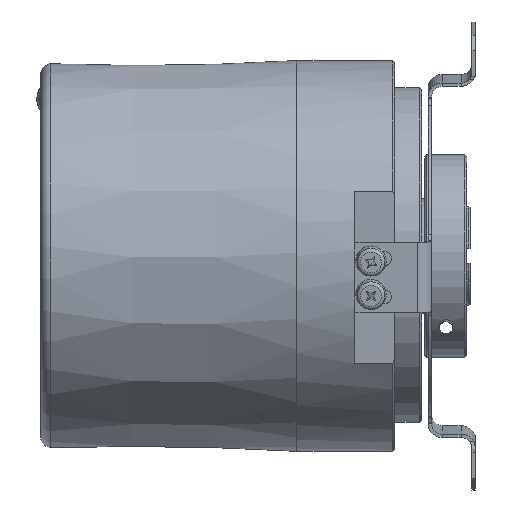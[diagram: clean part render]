
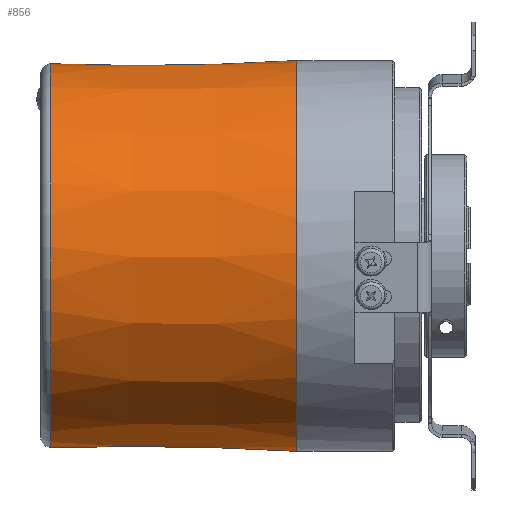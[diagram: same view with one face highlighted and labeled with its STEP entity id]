
A CAD part, front view. The second image highlights one B-rep face of the part: STEP entity #856.
In plain terms, the highlighted conical face has half-angle 0.75 degrees and reference radius 29 mm.
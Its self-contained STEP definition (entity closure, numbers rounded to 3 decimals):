
#46 = FACE_BOUND ( 'NONE', #16278, .T. ) ;
#79 = EDGE_CURVE ( 'NONE', #14159, #11202, #3216, .T. ) ;
#143 = AXIS2_PLACEMENT_3D ( 'NONE', #6059, #15076, #7360 ) ;
#185 = CARTESIAN_POINT ( 'NONE',  ( -2.48, 24.354, 15.503 ) ) ;
#376 = DIRECTION ( 'NONE',  ( 1., 0., 0. ) ) ;
#731 = CARTESIAN_POINT ( 'NONE',  ( -3.404, 26.422, -11.604 ) ) ;
#856 = ADVANCED_FACE ( 'NONE', ( #46, #10703 ), #11725, .T. ) ;
#1019 = ORIENTED_EDGE ( 'NONE', *, *, #16421, .T. ) ;
#1021 = CIRCLE ( 'NONE', #14043, 29. ) ;
#1437 = CARTESIAN_POINT ( 'NONE',  ( -4.417, 22.307, 18.287 ) ) ;
#1640 = CIRCLE ( 'NONE', #143, 28.869 ) ;
#1852 = VERTEX_POINT ( 'NONE', #16430 ) ;
#1936 = ORIENTED_EDGE ( 'NONE', *, *, #8983, .F. ) ;
#1986 = CARTESIAN_POINT ( 'NONE',  ( -2.48, 27.311, -9.359 ) ) ;
#2044 = CARTESIAN_POINT ( 'NONE',  ( -3.867, 26.227, -12.024 ) ) ;
#2679 = EDGE_LOOP ( 'NONE', ( #1019 ) ) ;
#2724 = CARTESIAN_POINT ( 'NONE',  ( -3.864, 22.54, 18.01 ) ) ;
#2794 = CARTESIAN_POINT ( 'NONE',  ( -27.02, 25.582, -12.671 ) ) ;
#2997 = EDGE_CURVE ( 'NONE', #14159, #10012, #12393, .T. ) ;
#3216 = B_SPLINE_CURVE_WITH_KNOTS ( 'NONE', 3,
 ( #7847, #15574, #6537, #9132, #1437, #10421, #2724, #11740, #3980, #13033, #5297, #14333, #6586, #15623, #7913, #185 ),
 .UNSPECIFIED., .F., .F.,
 ( 4, 2, 2, 2, 2, 2, 2, 4 ),
 ( 0., 0.001, 0.001, 0.002, 0.003, 0.003, 0.004, 0.005 ),
 .UNSPECIFIED. ) ;
#3317 = CARTESIAN_POINT ( 'NONE',  ( -4.419, 26.068, -12.348 ) ) ;
#3386 = VERTEX_POINT ( 'NONE', #7281 ) ;
#3725 = CARTESIAN_POINT ( 'NONE',  ( -8.48, 22.082, 18.475 ) ) ;
#3932 = ORIENTED_EDGE ( 'NONE', *, *, #2997, .T. ) ;
#3980 = CARTESIAN_POINT ( 'NONE',  ( -3.399, 22.834, 17.646 ) ) ;
#4065 = CARTESIAN_POINT ( 'NONE',  ( -22.021, 25.667, -12.647 ) ) ;
#4546 = CARTESIAN_POINT ( 'NONE',  ( -2.498, 27.239, -9.566 ) ) ;
#4607 = CARTESIAN_POINT ( 'NONE',  ( -5.043, 25.967, -12.54 ) ) ;
#4673 = ORIENTED_EDGE ( 'NONE', *, *, #5038, .T. ) ;
#4985 = CARTESIAN_POINT ( 'NONE',  ( -5.48, 22.134, 18.473 ) ) ;
#4987 = VERTEX_POINT ( 'NONE', #12284 ) ;
#5038 = EDGE_CURVE ( 'NONE', #12428, #1852, #13265, .T. ) ;
#5044 = CARTESIAN_POINT ( 'NONE',  ( -16.479, 21.942, 18.478 ) ) ;
#5064 = AXIS2_PLACEMENT_3D ( 'NONE', #10460, #14373, #6696 ) ;
#5297 = CARTESIAN_POINT ( 'NONE',  ( -3.029, 23.163, 17.22 ) ) ;
#5357 = CARTESIAN_POINT ( 'NONE',  ( -14.022, 25.802, -12.61 ) ) ;
#5421 = EDGE_CURVE ( 'NONE', #10012, #12428, #16420, .T. ) ;
#5855 = CARTESIAN_POINT ( 'NONE',  ( -2.618, 27.016, -10.174 ) ) ;
#5856 = ORIENTED_EDGE ( 'NONE', *, *, #5421, .T. ) ;
#5917 = CARTESIAN_POINT ( 'NONE',  ( -5.48, 25.946, -12.57 ) ) ;
#6059 = CARTESIAN_POINT ( 'NONE',  ( -2.48, 0., 0. ) ) ;
#6346 = CARTESIAN_POINT ( 'NONE',  ( -23.325, 21.822, 18.482 ) ) ;
#6537 = CARTESIAN_POINT ( 'NONE',  ( -5.038, 22.162, 18.448 ) ) ;
#6586 = CARTESIAN_POINT ( 'NONE',  ( -2.75, 23.515, 16.743 ) ) ;
#6671 = CARTESIAN_POINT ( 'NONE',  ( -8.328, 25.898, -12.583 ) ) ;
#6696 = DIRECTION ( 'NONE',  ( 0., -0.993, -0.122 ) ) ;
#7156 = CARTESIAN_POINT ( 'NONE',  ( -2.834, 26.79, -10.748 ) ) ;
#7224 = DIRECTION ( 'NONE',  ( -1., 0., 0. ) ) ;
#7281 = CARTESIAN_POINT ( 'NONE',  ( -2.48, 27.381, -9.15 ) ) ;
#7360 = DIRECTION ( 'NONE',  ( 0., 0.993, 0.122 ) ) ;
#7467 = ORIENTED_EDGE ( 'NONE', *, *, #16012, .T. ) ;
#7581 = CARTESIAN_POINT ( 'NONE',  ( -6.48, 22.116, 18.474 ) ) ;
#7847 = CARTESIAN_POINT ( 'NONE',  ( -5.48, 22.134, 18.473 ) ) ;
#7913 = CARTESIAN_POINT ( 'NONE',  ( -2.48, 24.117, 15.875 ) ) ;
#8109 = CARTESIAN_POINT ( 'NONE',  ( -29.02, 0., 0. ) ) ;
#8385 = CARTESIAN_POINT ( 'NONE',  ( -2.48, 27.381, -9.15 ) ) ;
#8445 = CARTESIAN_POINT ( 'NONE',  ( -3.145, 26.565, -11.281 ) ) ;
#8983 = EDGE_CURVE ( 'NONE', #3386, #1852, #11245, .T. ) ;
#9132 = CARTESIAN_POINT ( 'NONE',  ( -4.617, 22.247, 18.355 ) ) ;
#9367 = CARTESIAN_POINT ( 'NONE',  ( -5.48, 22.134, 18.473 ) ) ;
#9377 = DIRECTION ( 'NONE',  ( 0., 0.993, 0.122 ) ) ;
#9748 = CARTESIAN_POINT ( 'NONE',  ( -3.548, 26.354, -11.753 ) ) ;
#9790 = AXIS2_PLACEMENT_3D ( 'NONE', #8109, #376, #9377 ) ;
#10012 = VERTEX_POINT ( 'NONE', #13979 ) ;
#10421 = CARTESIAN_POINT ( 'NONE',  ( -4.037, 22.454, 18.113 ) ) ;
#10460 = CARTESIAN_POINT ( 'NONE',  ( 7.5, 0., 0. ) ) ;
#10501 = CARTESIAN_POINT ( 'NONE',  ( -28.02, 25.565, -12.676 ) ) ;
#10703 = FACE_OUTER_BOUND ( 'NONE', #2679, .T. ) ;
#11044 = CARTESIAN_POINT ( 'NONE',  ( -4.044, 26.167, -12.146 ) ) ;
#11200 = CARTESIAN_POINT ( 'NONE',  ( -29.02, 21.722, 18.484 ) ) ;
#11202 = VERTEX_POINT ( 'NONE', #12289 ) ;
#11245 = B_SPLINE_CURVE_WITH_KNOTS ( 'NONE', 3,
 ( #8385, #1986, #4546, #13586, #5855, #14883, #7156, #16169, #8445, #731, #9748, #2044, #11044, #3317, #12349, #4607, #13632, #5917 ),
 .UNSPECIFIED., .F., .F.,
 ( 4, 2, 2, 2, 2, 2, 2, 2, 4 ),
 ( 0., 0.001, 0.001, 0.002, 0.003, 0.003, 0.004, 0.005, 0.005 ),
 .UNSPECIFIED. ) ;
#11492 = CARTESIAN_POINT ( 'NONE',  ( -7.48, 22.099, 18.474 ) ) ;
#11725 = CONICAL_SURFACE ( 'NONE', #5064, 29., 0.013 ) ;
#11740 = CARTESIAN_POINT ( 'NONE',  ( -3.545, 22.729, 17.777 ) ) ;
#11803 = CARTESIAN_POINT ( 'NONE',  ( -26.02, 25.599, -12.666 ) ) ;
#12284 = CARTESIAN_POINT ( 'NONE',  ( 7.5, 28.784, 3.534 ) ) ;
#12289 = CARTESIAN_POINT ( 'NONE',  ( -2.48, 24.354, 15.503 ) ) ;
#12349 = CARTESIAN_POINT ( 'NONE',  ( -4.623, 26.026, -12.429 ) ) ;
#12393 = B_SPLINE_CURVE_WITH_KNOTS ( 'NONE', 3,
 ( #4985, #7581, #11492, #3725, #12791, #5044, #14063, #6346, #15373, #11200 ),
 .UNSPECIFIED., .F., .F.,
 ( 4, 3, 3, 4 ),
 ( 0., 0.003, 0.015, 0.024 ),
 .UNSPECIFIED. ) ;
#12428 = VERTEX_POINT ( 'NONE', #15739 ) ;
#12791 = CARTESIAN_POINT ( 'NONE',  ( -12.479, 22.012, 18.477 ) ) ;
#13033 = CARTESIAN_POINT ( 'NONE',  ( -3.141, 23.051, 17.368 ) ) ;
#13110 = CARTESIAN_POINT ( 'NONE',  ( -18.021, 25.734, -12.629 ) ) ;
#13265 = B_SPLINE_CURVE_WITH_KNOTS ( 'NONE', 3,
 ( #15637, #10501, #2794, #11803, #4065, #13110, #5357, #14394, #6671, #15689 ),
 .UNSPECIFIED., .F., .F.,
 ( 4, 3, 3, 4 ),
 ( 0., 0.003, 0.015, 0.024 ),
 .UNSPECIFIED. ) ;
#13586 = CARTESIAN_POINT ( 'NONE',  ( -2.567, 27.092, -9.972 ) ) ;
#13632 = CARTESIAN_POINT ( 'NONE',  ( -5.259, 25.949, -12.569 ) ) ;
#13979 = CARTESIAN_POINT ( 'NONE',  ( -29.02, 21.722, 18.484 ) ) ;
#14043 = AXIS2_PLACEMENT_3D ( 'NONE', #14953, #7224, #16238 ) ;
#14063 = CARTESIAN_POINT ( 'NONE',  ( -20.478, 21.872, 18.48 ) ) ;
#14159 = VERTEX_POINT ( 'NONE', #9367 ) ;
#14333 = CARTESIAN_POINT ( 'NONE',  ( -2.834, 23.395, 16.909 ) ) ;
#14373 = DIRECTION ( 'NONE',  ( 1., 0., 0. ) ) ;
#14394 = CARTESIAN_POINT ( 'NONE',  ( -11.175, 25.85, -12.597 ) ) ;
#14789 = ORIENTED_EDGE ( 'NONE', *, *, #79, .F. ) ;
#14883 = CARTESIAN_POINT ( 'NONE',  ( -2.752, 26.865, -10.562 ) ) ;
#14953 = CARTESIAN_POINT ( 'NONE',  ( 7.5, 0., 0. ) ) ;
#15076 = DIRECTION ( 'NONE',  ( 1., 0., 0. ) ) ;
#15373 = CARTESIAN_POINT ( 'NONE',  ( -26.172, 21.772, 18.483 ) ) ;
#15574 = CARTESIAN_POINT ( 'NONE',  ( -5.258, 22.138, 18.473 ) ) ;
#15623 = CARTESIAN_POINT ( 'NONE',  ( -2.549, 23.877, 16.231 ) ) ;
#15637 = CARTESIAN_POINT ( 'NONE',  ( -29.02, 25.548, -12.68 ) ) ;
#15689 = CARTESIAN_POINT ( 'NONE',  ( -5.48, 25.946, -12.57 ) ) ;
#15739 = CARTESIAN_POINT ( 'NONE',  ( -29.02, 25.548, -12.68 ) ) ;
#16012 = EDGE_CURVE ( 'NONE', #3386, #11202, #1640, .T. ) ;
#16169 = CARTESIAN_POINT ( 'NONE',  ( -3.03, 26.64, -11.107 ) ) ;
#16238 = DIRECTION ( 'NONE',  ( 0., 0.993, 0.122 ) ) ;
#16278 = EDGE_LOOP ( 'NONE', ( #1936, #7467, #14789, #3932, #5856, #4673 ) ) ;
#16420 = CIRCLE ( 'NONE', #9790, 28.522 ) ;
#16421 = EDGE_CURVE ( 'NONE', #4987, #4987, #1021, .T. ) ;
#16430 = CARTESIAN_POINT ( 'NONE',  ( -5.48, 25.946, -12.57 ) ) ;
